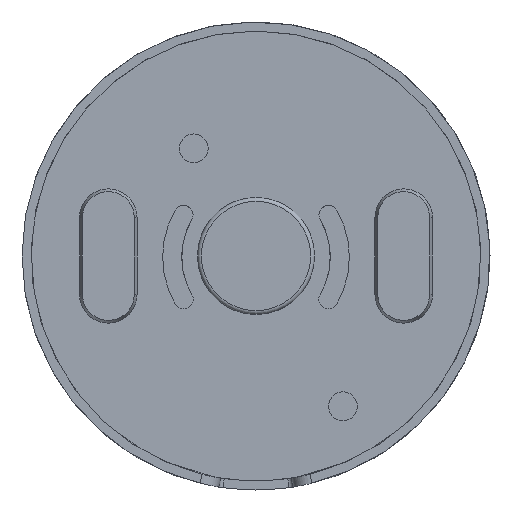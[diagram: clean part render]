
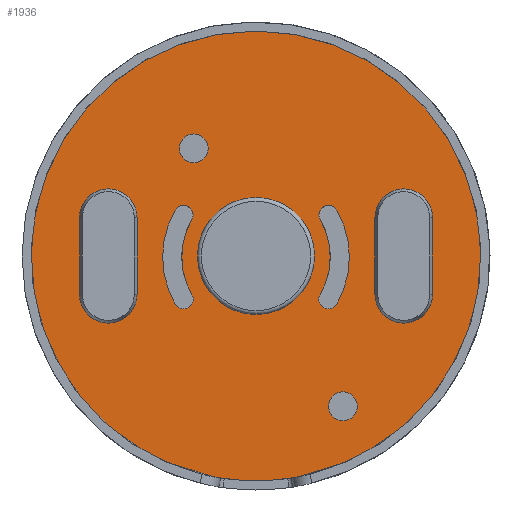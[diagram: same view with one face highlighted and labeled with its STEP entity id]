
A CAD part, front view. The second image highlights one B-rep face of the part: STEP entity #1936.
In plain terms, the highlighted planar face has unit normal (0, -1, 0).
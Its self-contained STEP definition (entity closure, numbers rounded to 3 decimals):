
#44=FACE_BOUND('',#261,.T.);
#45=FACE_BOUND('',#262,.T.);
#46=FACE_BOUND('',#263,.T.);
#47=FACE_BOUND('',#264,.T.);
#48=FACE_BOUND('',#265,.T.);
#78=PLANE('',#2133);
#149=FACE_OUTER_BOUND('',#260,.T.);
#260=EDGE_LOOP('',(#1465,#1466));
#261=EDGE_LOOP('',(#1467));
#262=EDGE_LOOP('',(#1468));
#263=EDGE_LOOP('',(#1469,#1470,#1471,#1472));
#264=EDGE_LOOP('',(#1473,#1474,#1475,#1476));
#265=EDGE_LOOP('',(#1477));
#373=CIRCLE('',#2069,0.75);
#375=CIRCLE('',#2072,0.75);
#377=CIRCLE('',#2075,3.9);
#382=CIRCLE('',#2082,0.5);
#384=CIRCLE('',#2085,4.9);
#386=CIRCLE('',#2088,0.5);
#388=CIRCLE('',#2091,0.5);
#393=CIRCLE('',#2098,3.9);
#395=CIRCLE('',#2101,4.9);
#397=CIRCLE('',#2104,0.5);
#409=CIRCLE('',#2123,11.725);
#411=CIRCLE('',#2129,11.725);
#413=CIRCLE('',#2134,3.05);
#830=VERTEX_POINT('',#3485);
#832=VERTEX_POINT('',#3491);
#834=VERTEX_POINT('',#3497);
#835=VERTEX_POINT('',#3498);
#841=VERTEX_POINT('',#3514);
#843=VERTEX_POINT('',#3520);
#846=VERTEX_POINT('',#3531);
#847=VERTEX_POINT('',#3532);
#853=VERTEX_POINT('',#3548);
#856=VERTEX_POINT('',#3556);
#863=VERTEX_POINT('',#3587);
#877=VERTEX_POINT('',#3663);
#882=VERTEX_POINT('',#3718);
#1034=EDGE_CURVE('',#830,#830,#373,.T.);
#1037=EDGE_CURVE('',#832,#832,#375,.T.);
#1040=EDGE_CURVE('',#834,#835,#377,.T.);
#1048=EDGE_CURVE('',#835,#841,#382,.T.);
#1051=EDGE_CURVE('',#841,#843,#384,.T.);
#1054=EDGE_CURVE('',#843,#834,#386,.T.);
#1057=EDGE_CURVE('',#846,#847,#388,.T.);
#1065=EDGE_CURVE('',#853,#846,#393,.T.);
#1069=EDGE_CURVE('',#847,#856,#395,.T.);
#1072=EDGE_CURVE('',#856,#853,#397,.T.);
#1102=EDGE_CURVE('',#877,#863,#409,.T.);
#1110=EDGE_CURVE('',#863,#877,#411,.T.);
#1112=EDGE_CURVE('',#882,#882,#413,.T.);
#1465=ORIENTED_EDGE('',*,*,#1110,.F.);
#1466=ORIENTED_EDGE('',*,*,#1102,.F.);
#1467=ORIENTED_EDGE('',*,*,#1034,.T.);
#1468=ORIENTED_EDGE('',*,*,#1037,.T.);
#1469=ORIENTED_EDGE('',*,*,#1051,.T.);
#1470=ORIENTED_EDGE('',*,*,#1054,.T.);
#1471=ORIENTED_EDGE('',*,*,#1040,.T.);
#1472=ORIENTED_EDGE('',*,*,#1048,.T.);
#1473=ORIENTED_EDGE('',*,*,#1069,.T.);
#1474=ORIENTED_EDGE('',*,*,#1072,.T.);
#1475=ORIENTED_EDGE('',*,*,#1065,.T.);
#1476=ORIENTED_EDGE('',*,*,#1057,.T.);
#1477=ORIENTED_EDGE('',*,*,#1112,.F.);
#1936=ADVANCED_FACE('',(#149,#44,#45,#46,#47,#48),#78,.T.);
#2069=AXIS2_PLACEMENT_3D('',#3486,#2366,#2367);
#2072=AXIS2_PLACEMENT_3D('',#3492,#2373,#2374);
#2075=AXIS2_PLACEMENT_3D('',#3499,#2380,#2381);
#2082=AXIS2_PLACEMENT_3D('',#3515,#2397,#2398);
#2085=AXIS2_PLACEMENT_3D('',#3521,#2404,#2405);
#2088=AXIS2_PLACEMENT_3D('',#3526,#2411,#2412);
#2091=AXIS2_PLACEMENT_3D('',#3533,#2418,#2419);
#2098=AXIS2_PLACEMENT_3D('',#3549,#2435,#2436);
#2101=AXIS2_PLACEMENT_3D('',#3557,#2443,#2444);
#2104=AXIS2_PLACEMENT_3D('',#3562,#2450,#2451);
#2123=AXIS2_PLACEMENT_3D('',#3679,#2498,#2499);
#2129=AXIS2_PLACEMENT_3D('',#3712,#2514,#2515);
#2133=AXIS2_PLACEMENT_3D('',#3717,#2522,#2523);
#2134=AXIS2_PLACEMENT_3D('',#3719,#2524,#2525);
#2366=DIRECTION('center_axis',(0.,1.,0.));
#2367=DIRECTION('ref_axis',(0.,0.,-1.));
#2373=DIRECTION('center_axis',(0.,1.,0.));
#2374=DIRECTION('ref_axis',(0.,0.,-1.));
#2380=DIRECTION('center_axis',(0.,-1.,0.));
#2381=DIRECTION('ref_axis',(-0.867,0.,0.499));
#2397=DIRECTION('center_axis',(0.,1.,0.));
#2398=DIRECTION('ref_axis',(-0.866,0.,-0.5));
#2404=DIRECTION('center_axis',(0.,1.,0.));
#2405=DIRECTION('ref_axis',(-0.867,0.,0.499));
#2411=DIRECTION('center_axis',(0.,1.,0.));
#2412=DIRECTION('ref_axis',(0.867,0.,-0.499));
#2418=DIRECTION('center_axis',(0.,1.,0.));
#2419=DIRECTION('ref_axis',(0.867,0.,0.499));
#2435=DIRECTION('center_axis',(0.,-1.,0.));
#2436=DIRECTION('ref_axis',(0.866,0.,-0.5));
#2443=DIRECTION('center_axis',(0.,1.,0.));
#2444=DIRECTION('ref_axis',(0.866,0.,-0.5));
#2450=DIRECTION('center_axis',(0.,1.,0.));
#2451=DIRECTION('ref_axis',(-0.866,0.,0.5));
#2498=DIRECTION('center_axis',(0.,1.,0.));
#2499=DIRECTION('ref_axis',(1.,0.,0.));
#2514=DIRECTION('center_axis',(0.,1.,0.));
#2515=DIRECTION('ref_axis',(1.,0.,0.));
#2522=DIRECTION('center_axis',(0.,-1.,0.));
#2523=DIRECTION('ref_axis',(1.,0.,0.));
#2524=DIRECTION('center_axis',(0.,-1.,0.));
#2525=DIRECTION('ref_axis',(1.,0.,0.));
#3485=CARTESIAN_POINT('',(-3.245,0.5,6.364));
#3486=CARTESIAN_POINT('Origin',(-3.245,0.5,5.614));
#3491=CARTESIAN_POINT('',(4.529,0.5,-7.085));
#3492=CARTESIAN_POINT('Origin',(4.529,0.5,-7.835));
#3497=CARTESIAN_POINT('',(-3.347,0.5,1.889));
#3498=CARTESIAN_POINT('',(-3.344,0.5,-2.008));
#3499=CARTESIAN_POINT('Origin',(0.033,0.5,-0.056));
#3514=CARTESIAN_POINT('',(-4.21,0.5,-2.509));
#3515=CARTESIAN_POINT('Origin',(-3.777,0.5,-2.259));
#3520=CARTESIAN_POINT('',(-4.214,0.5,2.388));
#3521=CARTESIAN_POINT('Origin',(0.033,0.5,-0.056));
#3526=CARTESIAN_POINT('Origin',(-3.781,0.5,2.139));
#3531=CARTESIAN_POINT('',(3.347,0.5,1.889));
#3532=CARTESIAN_POINT('',(4.214,0.5,2.388));
#3533=CARTESIAN_POINT('Origin',(3.781,0.5,2.139));
#3548=CARTESIAN_POINT('',(3.344,0.5,-2.008));
#3549=CARTESIAN_POINT('Origin',(-0.033,0.5,-0.056));
#3556=CARTESIAN_POINT('',(4.21,0.5,-2.509));
#3557=CARTESIAN_POINT('Origin',(-0.033,0.5,-0.056));
#3562=CARTESIAN_POINT('Origin',(3.777,0.5,-2.259));
#3587=CARTESIAN_POINT('',(1.985,0.5,-11.556));
#3663=CARTESIAN_POINT('',(-1.985,0.5,-11.556));
#3679=CARTESIAN_POINT('Origin',(0.,0.5,0.));
#3712=CARTESIAN_POINT('Origin',(0.,0.5,0.));
#3717=CARTESIAN_POINT('Origin',(0.,0.5,0.));
#3718=CARTESIAN_POINT('',(-3.05,0.5,0.));
#3719=CARTESIAN_POINT('Origin',(0.,0.5,0.));
